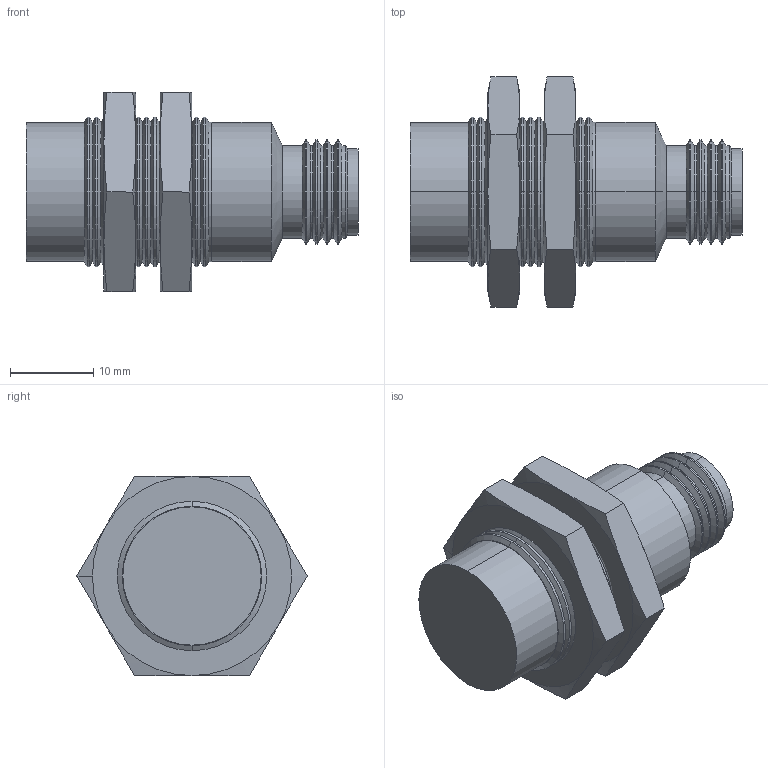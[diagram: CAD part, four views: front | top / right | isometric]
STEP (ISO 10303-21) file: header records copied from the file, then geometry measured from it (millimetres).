
FILE_DESCRIPTION (( 'STEP AP214' ), '1' );
FILE_NAME ('90-XXXX-003.STEP', '2015-10-28T13:07:17', ( 'Sam' ), ( 'Spade' ), 'SwSTEP 2.0', 'SolidWorks 2002296', '' );
FILE_SCHEMA (( 'AUTOMOTIVE_DESIGN' ));
Length unit declared in the file: inch
Products named in the file (9): 90-XXXX-003; Imported21; Imported20; Imported27; Imported26; Imported25; Imported24; Imported23; Imported22
Assembly tree (8 placements, depth 2):
  90-XXXX-003
    Imported27
    Imported23
    Imported25
    Imported21
    Imported24
    Imported22
    Imported20
    Imported26
Bounding box: 39.95 x 27.69 x 23.98 mm (x, y, z)
Volume: 9570.2 mm3; surface area: 6509.6 mm2
Topology: 8 solids, 8 shells, 288 faces, 597 edges, 327 vertices
Faces by surface type: cone 142, cylinder 103, plane 37, bspline 6
Entity records: 7887 total; most frequent: CARTESIAN_POINT 1451, DIRECTION 1427, ORIENTED_EDGE 1182, AXIS2_PLACEMENT_3D 591, EDGE_CURVE 591, VERTEX_POINT 327, EDGE_LOOP 300, CIRCLE 298
